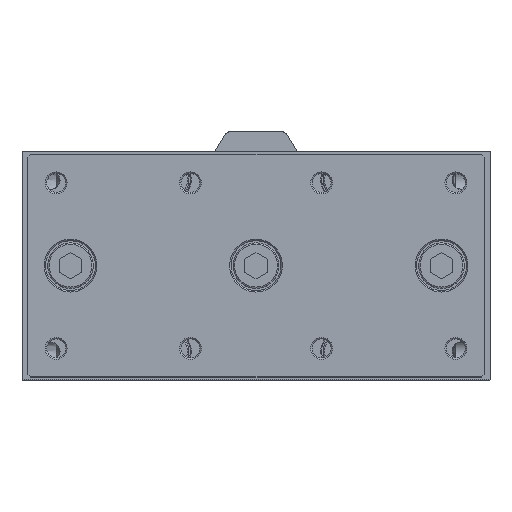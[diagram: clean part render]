
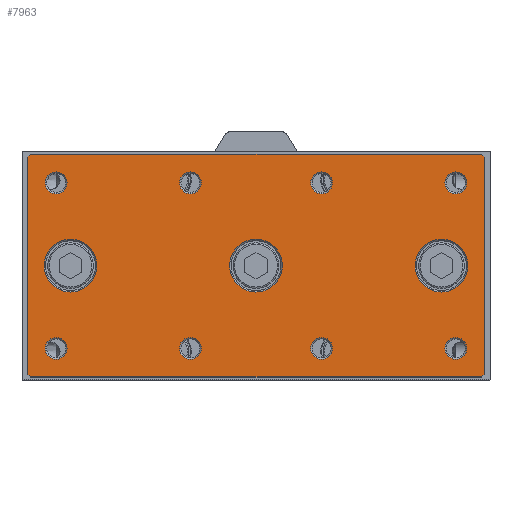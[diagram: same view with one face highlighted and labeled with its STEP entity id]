
A CAD part, top view. The second image highlights one B-rep face of the part: STEP entity #7963.
In plain terms, the highlighted planar face has unit normal (0, 0, 1).
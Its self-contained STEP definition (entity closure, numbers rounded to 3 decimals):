
#7745=CARTESIAN_POINT('',(-78.641,-40.316,160.5));
#7746=VERTEX_POINT('',#7745);
#7747=CARTESIAN_POINT('',(-79.641,-39.316,160.5));
#7748=VERTEX_POINT('',#7747);
#7749=CARTESIAN_POINT('',(-78.641,-40.316,160.5));
#7750=DIRECTION('',(-0.707,0.707,0.0));
#7751=VECTOR('',#7750,1.414);
#7752=LINE('',#7749,#7751);
#7753=EDGE_CURVE('',#7746,#7748,#7752,.T.);
#7780=CARTESIAN_POINT('',(0.359,-1.316,160.5));
#7781=DIRECTION('',(0.0,0.0,1.0));
#7782=DIRECTION('',(1.0,0.0,0.0));
#7783=AXIS2_PLACEMENT_3D('',#7780,#7781,#7782);
#7784=PLANE('',#7783);
#7785=ORIENTED_EDGE('',*,*,#7753,.F.);
#7786=CARTESIAN_POINT('',(79.359,-40.316,160.5));
#7787=VERTEX_POINT('',#7786);
#7788=CARTESIAN_POINT('',(79.359,-40.316,160.5));
#7789=DIRECTION('',(-1.0,0.0,0.0));
#7790=VECTOR('',#7789,158.0);
#7791=LINE('',#7788,#7790);
#7792=EDGE_CURVE('',#7787,#7746,#7791,.T.);
#7793=ORIENTED_EDGE('',*,*,#7792,.F.);
#7794=CARTESIAN_POINT('',(80.359,-39.316,160.5));
#7795=VERTEX_POINT('',#7794);
#7796=CARTESIAN_POINT('',(80.359,-39.316,160.5));
#7797=DIRECTION('',(-0.707,-0.707,0.0));
#7798=VECTOR('',#7797,1.414);
#7799=LINE('',#7796,#7798);
#7800=EDGE_CURVE('',#7795,#7787,#7799,.T.);
#7801=ORIENTED_EDGE('',*,*,#7800,.F.);
#7802=CARTESIAN_POINT('',(80.359,36.684,160.5));
#7803=VERTEX_POINT('',#7802);
#7804=CARTESIAN_POINT('',(80.359,36.684,160.5));
#7805=DIRECTION('',(0.0,-1.0,0.0));
#7806=VECTOR('',#7805,76.);
#7807=LINE('',#7804,#7806);
#7808=EDGE_CURVE('',#7803,#7795,#7807,.T.);
#7809=ORIENTED_EDGE('',*,*,#7808,.F.);
#7810=CARTESIAN_POINT('',(79.359,37.684,160.5));
#7811=VERTEX_POINT('',#7810);
#7812=CARTESIAN_POINT('',(79.359,37.684,160.5));
#7813=DIRECTION('',(0.707,-0.707,0.0));
#7814=VECTOR('',#7813,1.414);
#7815=LINE('',#7812,#7814);
#7816=EDGE_CURVE('',#7811,#7803,#7815,.T.);
#7817=ORIENTED_EDGE('',*,*,#7816,.F.);
#7818=CARTESIAN_POINT('',(-78.641,37.684,160.5));
#7819=VERTEX_POINT('',#7818);
#7820=CARTESIAN_POINT('',(-78.641,37.684,160.5));
#7821=DIRECTION('',(1.0,0.0,0.0));
#7822=VECTOR('',#7821,158.0);
#7823=LINE('',#7820,#7822);
#7824=EDGE_CURVE('',#7819,#7811,#7823,.T.);
#7825=ORIENTED_EDGE('',*,*,#7824,.F.);
#7826=CARTESIAN_POINT('',(-79.641,36.684,160.5));
#7827=VERTEX_POINT('',#7826);
#7828=CARTESIAN_POINT('',(-79.641,36.684,160.5));
#7829=DIRECTION('',(0.707,0.707,0.0));
#7830=VECTOR('',#7829,1.414);
#7831=LINE('',#7828,#7830);
#7832=EDGE_CURVE('',#7827,#7819,#7831,.T.);
#7833=ORIENTED_EDGE('',*,*,#7832,.F.);
#7834=CARTESIAN_POINT('',(-79.641,-39.316,160.5));
#7835=DIRECTION('',(0.0,1.0,0.0));
#7836=VECTOR('',#7835,76.0);
#7837=LINE('',#7834,#7836);
#7838=EDGE_CURVE('',#7748,#7827,#7837,.T.);
#7839=ORIENTED_EDGE('',*,*,#7838,.F.);
#7840=EDGE_LOOP('',(#7785,#7793,#7801,#7809,#7817,#7825,#7833,#7839));
#7841=FACE_OUTER_BOUND('',#7840,.T.);
#7842=CARTESIAN_POINT('',(-65.818,27.684,160.5));
#7843=VERTEX_POINT('',#7842);
#7844=CARTESIAN_POINT('',(-69.641,27.684,160.5));
#7845=DIRECTION('',(0.0,0.0,1.0));
#7846=DIRECTION('',(-1.0,0.0,0.0));
#7847=AXIS2_PLACEMENT_3D('',#7844,#7845,#7846);
#7848=CIRCLE('',#7847,3.823);
#7849=EDGE_CURVE('',#7843,#7843,#7848,.T.);
#7850=ORIENTED_EDGE('',*,*,#7849,.F.);
#7851=EDGE_LOOP('',(#7850));
#7852=FACE_BOUND('',#7851,.T.);
#7853=CARTESIAN_POINT('',(-18.818,27.684,160.5));
#7854=VERTEX_POINT('',#7853);
#7855=CARTESIAN_POINT('',(-22.641,27.684,160.5));
#7856=DIRECTION('',(0.0,0.0,1.0));
#7857=DIRECTION('',(-1.0,0.0,0.0));
#7858=AXIS2_PLACEMENT_3D('',#7855,#7856,#7857);
#7859=CIRCLE('',#7858,3.823);
#7860=EDGE_CURVE('',#7854,#7854,#7859,.T.);
#7861=ORIENTED_EDGE('',*,*,#7860,.F.);
#7862=EDGE_LOOP('',(#7861));
#7863=FACE_BOUND('',#7862,.T.);
#7864=CARTESIAN_POINT('',(9.609,-1.316,160.5));
#7865=VERTEX_POINT('',#7864);
#7866=CARTESIAN_POINT('',(0.359,-1.316,160.5));
#7867=DIRECTION('',(0.0,0.0,1.0));
#7868=DIRECTION('',(-1.0,0.0,0.0));
#7869=AXIS2_PLACEMENT_3D('',#7866,#7867,#7868);
#7870=CIRCLE('',#7869,9.25);
#7871=EDGE_CURVE('',#7865,#7865,#7870,.T.);
#7872=ORIENTED_EDGE('',*,*,#7871,.F.);
#7873=EDGE_LOOP('',(#7872));
#7874=FACE_BOUND('',#7873,.T.);
#7875=CARTESIAN_POINT('',(74.609,-1.316,160.5));
#7876=VERTEX_POINT('',#7875);
#7877=CARTESIAN_POINT('',(65.359,-1.316,160.5));
#7878=DIRECTION('',(0.0,0.0,1.0));
#7879=DIRECTION('',(-1.0,0.0,0.0));
#7880=AXIS2_PLACEMENT_3D('',#7877,#7878,#7879);
#7881=CIRCLE('',#7880,9.25);
#7882=EDGE_CURVE('',#7876,#7876,#7881,.T.);
#7883=ORIENTED_EDGE('',*,*,#7882,.F.);
#7884=EDGE_LOOP('',(#7883));
#7885=FACE_BOUND('',#7884,.T.);
#7886=CARTESIAN_POINT('',(-55.391,-1.316,160.5));
#7887=VERTEX_POINT('',#7886);
#7888=CARTESIAN_POINT('',(-64.641,-1.316,160.5));
#7889=DIRECTION('',(0.0,0.0,1.0));
#7890=DIRECTION('',(-1.0,0.0,0.0));
#7891=AXIS2_PLACEMENT_3D('',#7888,#7889,#7890);
#7892=CIRCLE('',#7891,9.25);
#7893=EDGE_CURVE('',#7887,#7887,#7892,.T.);
#7894=ORIENTED_EDGE('',*,*,#7893,.F.);
#7895=EDGE_LOOP('',(#7894));
#7896=FACE_BOUND('',#7895,.T.);
#7897=CARTESIAN_POINT('',(74.182,-30.316,160.5));
#7898=VERTEX_POINT('',#7897);
#7899=CARTESIAN_POINT('',(70.359,-30.316,160.5));
#7900=DIRECTION('',(0.0,0.0,1.0));
#7901=DIRECTION('',(-1.0,0.0,0.0));
#7902=AXIS2_PLACEMENT_3D('',#7899,#7900,#7901);
#7903=CIRCLE('',#7902,3.823);
#7904=EDGE_CURVE('',#7898,#7898,#7903,.T.);
#7905=ORIENTED_EDGE('',*,*,#7904,.F.);
#7906=EDGE_LOOP('',(#7905));
#7907=FACE_BOUND('',#7906,.T.);
#7908=CARTESIAN_POINT('',(-65.818,-30.316,160.5));
#7909=VERTEX_POINT('',#7908);
#7910=CARTESIAN_POINT('',(-69.641,-30.316,160.5));
#7911=DIRECTION('',(0.0,0.0,1.0));
#7912=DIRECTION('',(-1.0,0.0,0.0));
#7913=AXIS2_PLACEMENT_3D('',#7910,#7911,#7912);
#7914=CIRCLE('',#7913,3.823);
#7915=EDGE_CURVE('',#7909,#7909,#7914,.T.);
#7916=ORIENTED_EDGE('',*,*,#7915,.F.);
#7917=EDGE_LOOP('',(#7916));
#7918=FACE_BOUND('',#7917,.T.);
#7919=CARTESIAN_POINT('',(74.182,27.684,160.5));
#7920=VERTEX_POINT('',#7919);
#7921=CARTESIAN_POINT('',(70.359,27.684,160.5));
#7922=DIRECTION('',(0.0,0.0,1.0));
#7923=DIRECTION('',(-1.0,0.0,0.0));
#7924=AXIS2_PLACEMENT_3D('',#7921,#7922,#7923);
#7925=CIRCLE('',#7924,3.823);
#7926=EDGE_CURVE('',#7920,#7920,#7925,.T.);
#7927=ORIENTED_EDGE('',*,*,#7926,.F.);
#7928=EDGE_LOOP('',(#7927));
#7929=FACE_BOUND('',#7928,.T.);
#7930=CARTESIAN_POINT('',(27.182,-30.316,160.5));
#7931=VERTEX_POINT('',#7930);
#7932=CARTESIAN_POINT('',(23.359,-30.316,160.5));
#7933=DIRECTION('',(0.0,0.0,1.0));
#7934=DIRECTION('',(-1.0,0.0,0.0));
#7935=AXIS2_PLACEMENT_3D('',#7932,#7933,#7934);
#7936=CIRCLE('',#7935,3.824);
#7937=EDGE_CURVE('',#7931,#7931,#7936,.T.);
#7938=ORIENTED_EDGE('',*,*,#7937,.F.);
#7939=EDGE_LOOP('',(#7938));
#7940=FACE_BOUND('',#7939,.T.);
#7941=CARTESIAN_POINT('',(-18.818,-30.316,160.5));
#7942=VERTEX_POINT('',#7941);
#7943=CARTESIAN_POINT('',(-22.641,-30.316,160.5));
#7944=DIRECTION('',(0.0,0.0,1.0));
#7945=DIRECTION('',(-1.0,0.0,0.0));
#7946=AXIS2_PLACEMENT_3D('',#7943,#7944,#7945);
#7947=CIRCLE('',#7946,3.823);
#7948=EDGE_CURVE('',#7942,#7942,#7947,.T.);
#7949=ORIENTED_EDGE('',*,*,#7948,.F.);
#7950=EDGE_LOOP('',(#7949));
#7951=FACE_BOUND('',#7950,.T.);
#7952=CARTESIAN_POINT('',(27.182,27.684,160.5));
#7953=VERTEX_POINT('',#7952);
#7954=CARTESIAN_POINT('',(23.359,27.684,160.5));
#7955=DIRECTION('',(0.0,0.0,1.0));
#7956=DIRECTION('',(-1.0,0.0,0.0));
#7957=AXIS2_PLACEMENT_3D('',#7954,#7955,#7956);
#7958=CIRCLE('',#7957,3.824);
#7959=EDGE_CURVE('',#7953,#7953,#7958,.T.);
#7960=ORIENTED_EDGE('',*,*,#7959,.F.);
#7961=EDGE_LOOP('',(#7960));
#7962=FACE_BOUND('',#7961,.T.);
#7963=ADVANCED_FACE('',(#7841,#7852,#7863,#7874,#7885,#7896,#7907,#7918,#7929,#7940,#7951,#7962),#7784,.T.);
